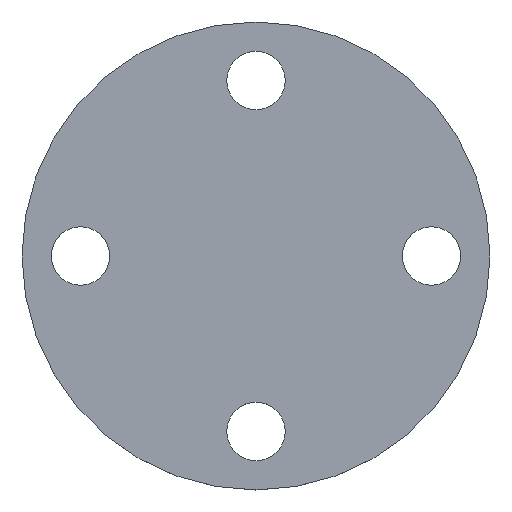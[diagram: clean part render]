
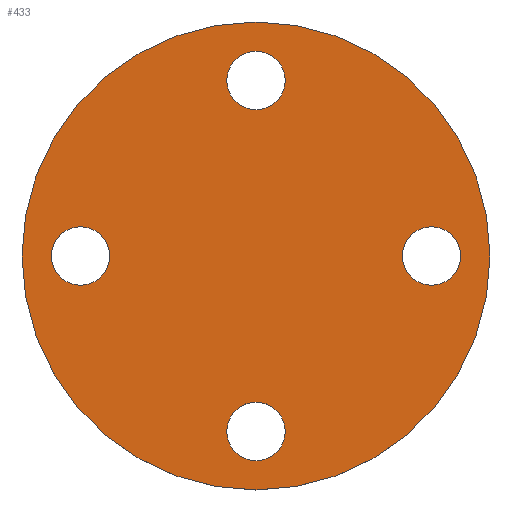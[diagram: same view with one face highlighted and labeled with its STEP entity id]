
A CAD part, top view. The second image highlights one B-rep face of the part: STEP entity #433.
In plain terms, the highlighted planar face has unit normal (0, 0, 1).
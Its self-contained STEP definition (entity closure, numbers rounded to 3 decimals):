
#24 = VERTEX_POINT('',#25);
#25 = CARTESIAN_POINT('',(20.,0.,0.625));
#32 = CYLINDRICAL_SURFACE('',#33,20.);
#33 = AXIS2_PLACEMENT_3D('',#34,#35,#36);
#34 = CARTESIAN_POINT('',(0.,0.,-0.625));
#35 = DIRECTION('',(-0.,-0.,-1.));
#36 = DIRECTION('',(1.,0.,0.));
#51 = EDGE_CURVE('',#24,#24,#52,.T.);
#52 = SURFACE_CURVE('',#53,(#58,#65),.PCURVE_S1.);
#53 = CIRCLE('',#54,20.);
#54 = AXIS2_PLACEMENT_3D('',#55,#56,#57);
#55 = CARTESIAN_POINT('',(0.,0.,0.625));
#56 = DIRECTION('',(0.,0.,1.));
#57 = DIRECTION('',(1.,0.,0.));
#58 = PCURVE('',#32,#59);
#59 = DEFINITIONAL_REPRESENTATION('',(#60),#64);
#60 = LINE('',#61,#62);
#61 = CARTESIAN_POINT('',(-0.,-1.25));
#62 = VECTOR('',#63,1.);
#63 = DIRECTION('',(-1.,0.));
#64 = ( GEOMETRIC_REPRESENTATION_CONTEXT(2) 
PARAMETRIC_REPRESENTATION_CONTEXT() REPRESENTATION_CONTEXT('2D SPACE',''
  ) );
#65 = PCURVE('',#66,#71);
#66 = PLANE('',#67);
#67 = AXIS2_PLACEMENT_3D('',#68,#69,#70);
#68 = CARTESIAN_POINT('',(0.,0.,0.625));
#69 = DIRECTION('',(0.,0.,1.));
#70 = DIRECTION('',(1.,0.,-0.));
#71 = DEFINITIONAL_REPRESENTATION('',(#72),#76);
#72 = CIRCLE('',#73,20.);
#73 = AXIS2_PLACEMENT_2D('',#74,#75);
#74 = CARTESIAN_POINT('',(0.,0.));
#75 = DIRECTION('',(1.,0.));
#76 = ( GEOMETRIC_REPRESENTATION_CONTEXT(2) 
PARAMETRIC_REPRESENTATION_CONTEXT() REPRESENTATION_CONTEXT('2D SPACE',''
  ) );
#112 = VERTEX_POINT('',#113);
#113 = CARTESIAN_POINT('',(17.5,0.,0.625));
#120 = CYLINDRICAL_SURFACE('',#121,2.5);
#121 = AXIS2_PLACEMENT_3D('',#122,#123,#124);
#122 = CARTESIAN_POINT('',(15.,0.,-0.625));
#123 = DIRECTION('',(-0.,-0.,-1.));
#124 = DIRECTION('',(1.,0.,0.));
#139 = EDGE_CURVE('',#112,#112,#140,.T.);
#140 = SURFACE_CURVE('',#141,(#146,#153),.PCURVE_S1.);
#141 = CIRCLE('',#142,2.5);
#142 = AXIS2_PLACEMENT_3D('',#143,#144,#145);
#143 = CARTESIAN_POINT('',(15.,0.,0.625));
#144 = DIRECTION('',(0.,0.,1.));
#145 = DIRECTION('',(1.,0.,0.));
#146 = PCURVE('',#120,#147);
#147 = DEFINITIONAL_REPRESENTATION('',(#148),#152);
#148 = LINE('',#149,#150);
#149 = CARTESIAN_POINT('',(-0.,-1.25));
#150 = VECTOR('',#151,1.);
#151 = DIRECTION('',(-1.,0.));
#152 = ( GEOMETRIC_REPRESENTATION_CONTEXT(2) 
PARAMETRIC_REPRESENTATION_CONTEXT() REPRESENTATION_CONTEXT('2D SPACE',''
  ) );
#153 = PCURVE('',#66,#154);
#154 = DEFINITIONAL_REPRESENTATION('',(#155),#159);
#155 = CIRCLE('',#156,2.5);
#156 = AXIS2_PLACEMENT_2D('',#157,#158);
#157 = CARTESIAN_POINT('',(15.,0.));
#158 = DIRECTION('',(1.,0.));
#159 = ( GEOMETRIC_REPRESENTATION_CONTEXT(2) 
PARAMETRIC_REPRESENTATION_CONTEXT() REPRESENTATION_CONTEXT('2D SPACE',''
  ) );
#190 = VERTEX_POINT('',#191);
#191 = CARTESIAN_POINT('',(2.5,15.,0.625));
#198 = CYLINDRICAL_SURFACE('',#199,2.5);
#199 = AXIS2_PLACEMENT_3D('',#200,#201,#202);
#200 = CARTESIAN_POINT('',(0.,15.,-0.625));
#201 = DIRECTION('',(-0.,-0.,-1.));
#202 = DIRECTION('',(1.,0.,0.));
#217 = EDGE_CURVE('',#190,#190,#218,.T.);
#218 = SURFACE_CURVE('',#219,(#224,#231),.PCURVE_S1.);
#219 = CIRCLE('',#220,2.5);
#220 = AXIS2_PLACEMENT_3D('',#221,#222,#223);
#221 = CARTESIAN_POINT('',(0.,15.,0.625));
#222 = DIRECTION('',(0.,0.,1.));
#223 = DIRECTION('',(1.,0.,0.));
#224 = PCURVE('',#198,#225);
#225 = DEFINITIONAL_REPRESENTATION('',(#226),#230);
#226 = LINE('',#227,#228);
#227 = CARTESIAN_POINT('',(-0.,-1.25));
#228 = VECTOR('',#229,1.);
#229 = DIRECTION('',(-1.,0.));
#230 = ( GEOMETRIC_REPRESENTATION_CONTEXT(2) 
PARAMETRIC_REPRESENTATION_CONTEXT() REPRESENTATION_CONTEXT('2D SPACE',''
  ) );
#231 = PCURVE('',#66,#232);
#232 = DEFINITIONAL_REPRESENTATION('',(#233),#237);
#233 = CIRCLE('',#234,2.5);
#234 = AXIS2_PLACEMENT_2D('',#235,#236);
#235 = CARTESIAN_POINT('',(0.,15.));
#236 = DIRECTION('',(1.,0.));
#237 = ( GEOMETRIC_REPRESENTATION_CONTEXT(2) 
PARAMETRIC_REPRESENTATION_CONTEXT() REPRESENTATION_CONTEXT('2D SPACE',''
  ) );
#268 = VERTEX_POINT('',#269);
#269 = CARTESIAN_POINT('',(-12.5,0.,0.625));
#276 = CYLINDRICAL_SURFACE('',#277,2.5);
#277 = AXIS2_PLACEMENT_3D('',#278,#279,#280);
#278 = CARTESIAN_POINT('',(-15.,0.,-0.625));
#279 = DIRECTION('',(-0.,-0.,-1.));
#280 = DIRECTION('',(1.,0.,0.));
#295 = EDGE_CURVE('',#268,#268,#296,.T.);
#296 = SURFACE_CURVE('',#297,(#302,#309),.PCURVE_S1.);
#297 = CIRCLE('',#298,2.5);
#298 = AXIS2_PLACEMENT_3D('',#299,#300,#301);
#299 = CARTESIAN_POINT('',(-15.,0.,0.625));
#300 = DIRECTION('',(0.,0.,1.));
#301 = DIRECTION('',(1.,0.,0.));
#302 = PCURVE('',#276,#303);
#303 = DEFINITIONAL_REPRESENTATION('',(#304),#308);
#304 = LINE('',#305,#306);
#305 = CARTESIAN_POINT('',(-0.,-1.25));
#306 = VECTOR('',#307,1.);
#307 = DIRECTION('',(-1.,0.));
#308 = ( GEOMETRIC_REPRESENTATION_CONTEXT(2) 
PARAMETRIC_REPRESENTATION_CONTEXT() REPRESENTATION_CONTEXT('2D SPACE',''
  ) );
#309 = PCURVE('',#66,#310);
#310 = DEFINITIONAL_REPRESENTATION('',(#311),#315);
#311 = CIRCLE('',#312,2.5);
#312 = AXIS2_PLACEMENT_2D('',#313,#314);
#313 = CARTESIAN_POINT('',(-15.,0.));
#314 = DIRECTION('',(1.,0.));
#315 = ( GEOMETRIC_REPRESENTATION_CONTEXT(2) 
PARAMETRIC_REPRESENTATION_CONTEXT() REPRESENTATION_CONTEXT('2D SPACE',''
  ) );
#346 = VERTEX_POINT('',#347);
#347 = CARTESIAN_POINT('',(2.5,-15.,0.625));
#354 = CYLINDRICAL_SURFACE('',#355,2.5);
#355 = AXIS2_PLACEMENT_3D('',#356,#357,#358);
#356 = CARTESIAN_POINT('',(0.,-15.,-0.625));
#357 = DIRECTION('',(-0.,-0.,-1.));
#358 = DIRECTION('',(1.,0.,0.));
#373 = EDGE_CURVE('',#346,#346,#374,.T.);
#374 = SURFACE_CURVE('',#375,(#380,#387),.PCURVE_S1.);
#375 = CIRCLE('',#376,2.5);
#376 = AXIS2_PLACEMENT_3D('',#377,#378,#379);
#377 = CARTESIAN_POINT('',(0.,-15.,0.625));
#378 = DIRECTION('',(0.,0.,1.));
#379 = DIRECTION('',(1.,0.,0.));
#380 = PCURVE('',#354,#381);
#381 = DEFINITIONAL_REPRESENTATION('',(#382),#386);
#382 = LINE('',#383,#384);
#383 = CARTESIAN_POINT('',(-0.,-1.25));
#384 = VECTOR('',#385,1.);
#385 = DIRECTION('',(-1.,0.));
#386 = ( GEOMETRIC_REPRESENTATION_CONTEXT(2) 
PARAMETRIC_REPRESENTATION_CONTEXT() REPRESENTATION_CONTEXT('2D SPACE',''
  ) );
#387 = PCURVE('',#66,#388);
#388 = DEFINITIONAL_REPRESENTATION('',(#389),#393);
#389 = CIRCLE('',#390,2.5);
#390 = AXIS2_PLACEMENT_2D('',#391,#392);
#391 = CARTESIAN_POINT('',(0.,-15.));
#392 = DIRECTION('',(1.,0.));
#393 = ( GEOMETRIC_REPRESENTATION_CONTEXT(2) 
PARAMETRIC_REPRESENTATION_CONTEXT() REPRESENTATION_CONTEXT('2D SPACE',''
  ) );
#433 = ADVANCED_FACE('',(#434,#437,#440,#443,#446),#66,.T.);
#434 = FACE_BOUND('',#435,.T.);
#435 = EDGE_LOOP('',(#436));
#436 = ORIENTED_EDGE('',*,*,#51,.T.);
#437 = FACE_BOUND('',#438,.T.);
#438 = EDGE_LOOP('',(#439));
#439 = ORIENTED_EDGE('',*,*,#139,.F.);
#440 = FACE_BOUND('',#441,.T.);
#441 = EDGE_LOOP('',(#442));
#442 = ORIENTED_EDGE('',*,*,#217,.F.);
#443 = FACE_BOUND('',#444,.T.);
#444 = EDGE_LOOP('',(#445));
#445 = ORIENTED_EDGE('',*,*,#295,.F.);
#446 = FACE_BOUND('',#447,.T.);
#447 = EDGE_LOOP('',(#448));
#448 = ORIENTED_EDGE('',*,*,#373,.F.);
